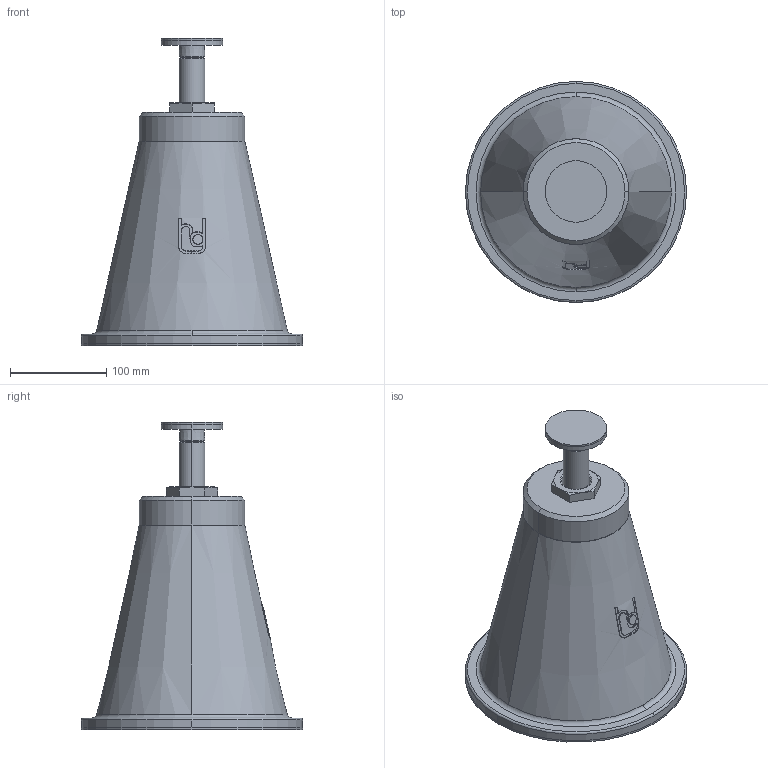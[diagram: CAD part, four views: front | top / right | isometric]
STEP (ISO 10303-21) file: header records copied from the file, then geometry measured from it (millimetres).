
FILE_DESCRIPTION(('STEP AP214'),'1');
FILE_NAME('RSRFA-05-V1.stp','2018-06-25T11:04:38',(' '),(' '),'Spatial InterOp 3D',' ',' ');
FILE_SCHEMA(('automotive_design'));
Length unit declared in the file: millimetre
Products named in the file (6): 1; 2; 3; 4; 5; 6
Bounding box: 230 x 230 x 319.5 mm (x, y, z)
Volume: 4809442.8 mm3; surface area: 315247 mm2
Topology: 6 solids, 7 shells, 112 faces, 261 edges, 167 vertices
Faces by surface type: plane 42, cylinder 37, cone 25, torus 8
Entity records: 4602 total; most frequent: CARTESIAN_POINT 1004, DIRECTION 564, ORIENTED_EDGE 522, EDGE_CURVE 261, AXIS2_PLACEMENT_3D 227, VERTEX_POINT 167, EDGE_LOOP 120, STYLED_ITEM 118
